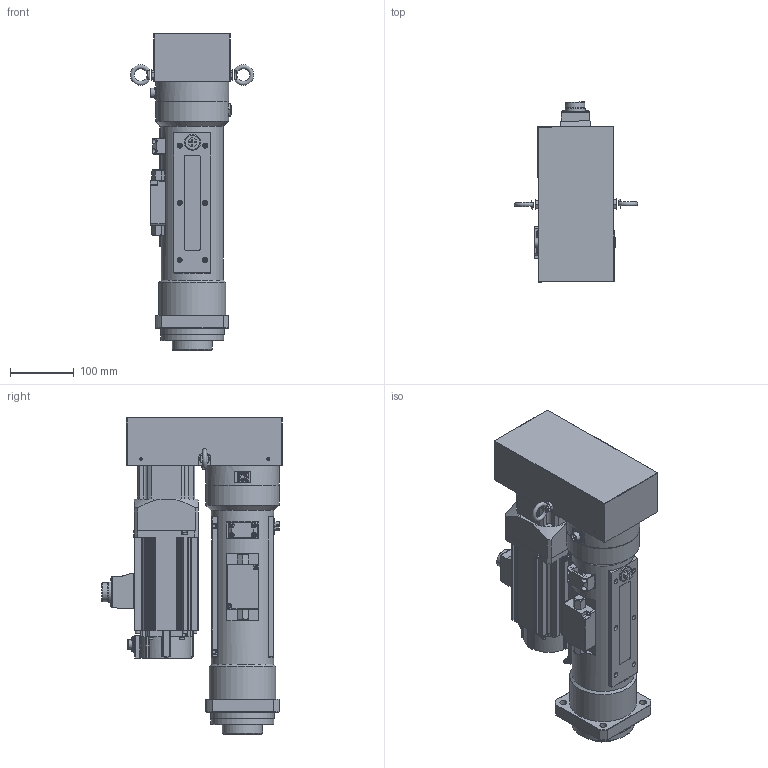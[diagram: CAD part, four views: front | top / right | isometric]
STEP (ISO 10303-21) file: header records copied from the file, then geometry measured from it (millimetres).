
FILE_DESCRIPTION(/* description */ (''),/* implementation_level */ '2;1');
FILE_NAME(/* name */ 'Z:\07.Product\01.Design\3D\1.P-All\OAICS-P\0000.Assembly\OACIS-P020,P030-150-200-A6V200.stp',/* time_stamp */ '2023-07-05T11:14:41+09:00',/* author */ ('magic'),/* organization */ (''),/* preprocessor_version */ 'ST-DEVELOPER v17',/* originating_system */ 'Autodesk Inventor 2019',/* authorisation */ '');
FILE_SCHEMA (('AUTOMOTIVE_DESIGN { 1 0 10303 214 3 1 1 }'));
Products named in the file (1): OACIS-P020-150-200-A6V200
Bounding box: 193.9 x 283.44 x 498 mm (x, y, z)
Volume: 5921470.6 mm3; surface area: 798871.4 mm2
Topology: 2 solids, 2 shells, 2101 faces, 5616 edges, 3701 vertices
Faces by surface type: plane 958, cylinder 698, cone 222, bspline 108, sphere 60, torus 55
Full cylindrical faces by diameter (mm): 1 x6, 3.242 x33, 4.134 x4, 4.5 x25, 4.917 x19, 5 x2, 5.8 x2, 6.5 x2, 6.6 x10, 6.647 x8, 6.75 x4, 6.8 x1, 7 x12, 7.2 x2, 7.24 x2, 7.8 x2, 8 x37, 8.376 x8, 8.4 x1, 8.7 x1, 9 x12, 9.188 x1, 11 x4, 14 x9, 14.8 x1, 16.376 x1, 18 x1, 22 x1, 25 x1, 25.4 x1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
Entity records: 78589 total; most frequent: CARTESIAN_POINT 23285, DIRECTION 11260, ORIENTED_EDGE 11034, EDGE_CURVE 5517, AXIS2_PLACEMENT_3D 4218, VERTEX_POINT 3701, LINE 2824, VECTOR 2824
